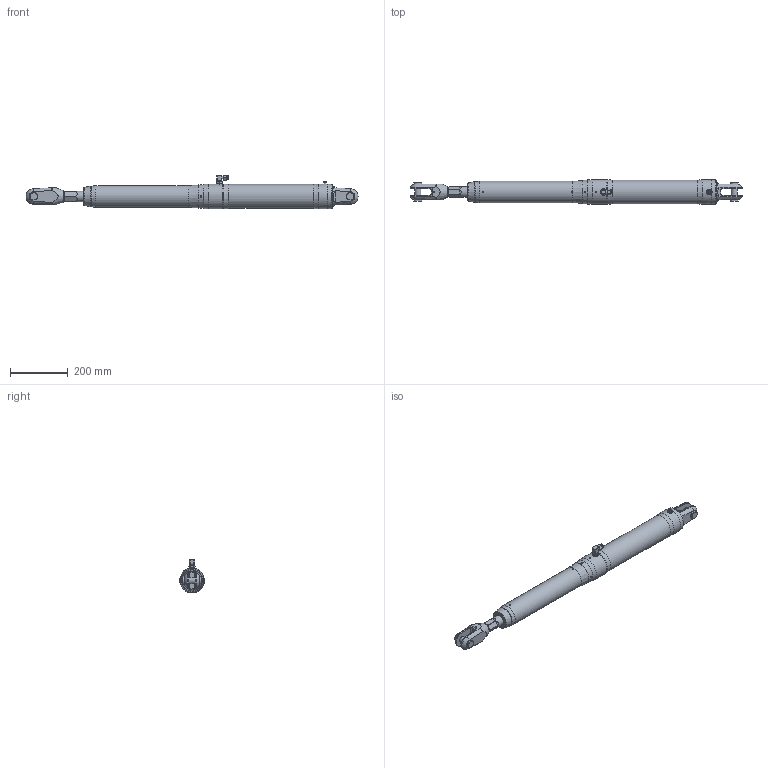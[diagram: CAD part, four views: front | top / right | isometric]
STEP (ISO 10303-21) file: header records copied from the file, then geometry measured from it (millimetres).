
FILE_DESCRIPTION(/* description */ (''),/* implementation_level */ '2;1');
FILE_NAME(/* name */ 'Q:\AA BRAND HYDRAULICS\HYDRAULICS FAMILY DIRECTORY\HYDRAULICS\CYLINDERS\MECHANICAL LOCK RAMS\ALUMINIUM - STAINLESS SINGLE ACTING (-0012 To -0150)\MSA-0030-S0300-NP-71\MSA-0030-S0300-NP-71 (Closed).stp',/* time_stamp */ '2018-04-25T15:51:18+01:00',/* author */ ('Lorena'),/* organization */ (''),/* preprocessor_version */ 'ST-DEVELOPER v17',/* originating_system */ 'Autodesk Inventor 2018',/* authorisation */ '');
FILE_SCHEMA (('AUTOMOTIVE_DESIGN { 1 0 10303 214 3 1 1 }'));
Length unit declared in the file: millimetre
Products named in the file (1): MSA-0030-S0300-NP-71 (Closed)
Bounding box: 1145.16 x 85.6 x 116.4 mm (x, y, z)
Volume: 4696914.5 mm3; surface area: 295883.6 mm2
Topology: 2 solids, 4 shells, 497 faces, 1299 edges, 845 vertices
Faces by surface type: plane 281, cone 125, cylinder 77, torus 6, sphere 4, bspline 4
Full cylindrical faces by diameter (mm): 4 x1, 4.134 x1, 4.2 x2, 4.4 x1, 5 x7, 5.1 x1, 7 x1, 9 x1, 10 x2, 11.11 x1, 11.157 x1, 11.5 x1, 11.8 x1, 12 x1, 12.157 x1, 13 x1, 13.157 x2, 14.5 x2, 16 x2, 18.3 x3, 22 x1, 22.23 x2, 23.5 x1, 27.788 x2, 36 x2, 37 x2, 40 x1, 74 x1, 82.6 x1, 85.6 x4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
Entity records: 16816 total; most frequent: CARTESIAN_POINT 4219, ORIENTED_EDGE 2580, DIRECTION 2515, EDGE_CURVE 1290, AXIS2_PLACEMENT_3D 968, VERTEX_POINT 846, LINE 579, VECTOR 579
